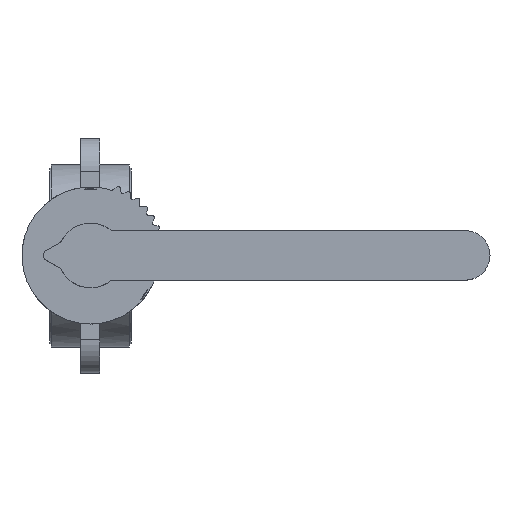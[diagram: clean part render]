
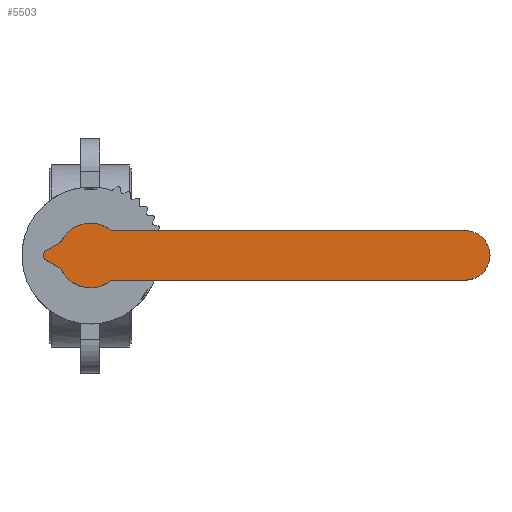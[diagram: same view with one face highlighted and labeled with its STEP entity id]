
A CAD part, top view. The second image highlights one B-rep face of the part: STEP entity #5503.
In plain terms, the highlighted planar face has unit normal (0, 0, 1).
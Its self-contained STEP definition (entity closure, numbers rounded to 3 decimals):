
#5503=ADVANCED_FACE('',(#10753),#10755,.T.);
#10753=FACE_BOUND('',#10754,.T.);
#10754=EDGE_LOOP('',(#15001,#15002,#15003,#15004,#15005,#15006,#15007,#15008,#15009,
#15010,#15011));
#10755=PLANE('',#10756);
#10756=AXIS2_PLACEMENT_3D('',#10757,#10758,#10759);
#10757=CARTESIAN_POINT('',(-1.545,-4.755,175.));
#10758=DIRECTION('',(0.,0.,1.));
#10759=DIRECTION('',(0.951,-0.309,0.));
#15001=ORIENTED_EDGE('',*,*,#17360,.T.);
#15002=ORIENTED_EDGE('',*,*,#17377,.T.);
#15003=ORIENTED_EDGE('',*,*,#17375,.T.);
#15004=ORIENTED_EDGE('',*,*,#17378,.T.);
#15005=ORIENTED_EDGE('',*,*,#17379,.T.);
#15006=ORIENTED_EDGE('',*,*,#17380,.T.);
#15007=ORIENTED_EDGE('',*,*,#17381,.T.);
#15008=ORIENTED_EDGE('',*,*,#17382,.T.);
#15009=ORIENTED_EDGE('',*,*,#17383,.T.);
#15010=ORIENTED_EDGE('',*,*,#17384,.T.);
#15011=ORIENTED_EDGE('',*,*,#17385,.T.);
#17360=EDGE_CURVE('',#20577,#20605,#20607,.T.);
#17375=EDGE_CURVE('',#20637,#20635,#20638,.T.);
#17377=EDGE_CURVE('',#20605,#20637,#20640,.T.);
#17378=EDGE_CURVE('',#20635,#20641,#20642,.T.);
#17379=EDGE_CURVE('',#20641,#20643,#20644,.T.);
#17380=EDGE_CURVE('',#20643,#20645,#20646,.T.);
#17381=EDGE_CURVE('',#20645,#20647,#20648,.T.);
#17382=EDGE_CURVE('',#20647,#20649,#20650,.T.);
#17383=EDGE_CURVE('',#20649,#20651,#20652,.T.);
#17384=EDGE_CURVE('',#20651,#20653,#20654,.T.);
#17385=EDGE_CURVE('',#20653,#20577,#20655,.T.);
#20577=VERTEX_POINT('',#29083);
#20605=VERTEX_POINT('',#29139);
#20607=LINE('',#29143,#29144);
#20635=VERTEX_POINT('',#29199);
#20637=VERTEX_POINT('',#29203);
#20638=LINE('',#29204,#29205);
#20640=CIRCLE('',#29210,13.);
#20641=VERTEX_POINT('',#29214);
#20642=CIRCLE('',#29215,17.);
#20643=VERTEX_POINT('',#29219);
#20644=CIRCLE('',#29220,17.);
#20645=VERTEX_POINT('',#29224);
#20646=CIRCLE('',#29225,3.);
#20647=VERTEX_POINT('',#29229);
#20648=LINE('',#29230,#29231);
#20649=VERTEX_POINT('',#29233);
#20650=CIRCLE('',#29234,3.);
#20651=VERTEX_POINT('',#29238);
#20652=LINE('',#29239,#29240);
#20653=VERTEX_POINT('',#29242);
#20654=CIRCLE('',#29243,3.);
#20655=CIRCLE('',#29247,17.);
#29083=CARTESIAN_POINT('',(10.954,-13.,175.));
#29139=CARTESIAN_POINT('',(197.,-13.,175.));
#29143=CARTESIAN_POINT('',(10.954,-13.,175.));
#29144=VECTOR('',#29145,1.);
#29145=DIRECTION('',(1.,0.,0.));
#29199=CARTESIAN_POINT('',(10.954,13.,175.));
#29203=CARTESIAN_POINT('',(197.,13.,175.));
#29204=CARTESIAN_POINT('',(197.,13.,175.));
#29205=VECTOR('',#29206,1.);
#29206=DIRECTION('',(-1.,0.,0.));
#29210=AXIS2_PLACEMENT_3D('',#29211,#29212,#29213);
#29211=CARTESIAN_POINT('',(197.,0.,175.));
#29212=DIRECTION('',(0.,0.,1.));
#29213=DIRECTION('',(0.,-1.,0.));
#29214=CARTESIAN_POINT('',(2.659,16.791,175.));
#29215=AXIS2_PLACEMENT_3D('',#29216,#29217,#29218);
#29216=CARTESIAN_POINT('',(0.,0.,175.));
#29217=DIRECTION('',(0.,0.,1.));
#29218=DIRECTION('',(0.644,0.765,0.));
#29219=CARTESIAN_POINT('',(-15.113,7.785,175.));
#29220=AXIS2_PLACEMENT_3D('',#29221,#29222,#29223);
#29221=CARTESIAN_POINT('',(0.,0.,175.));
#29222=DIRECTION('',(0.,0.,1.));
#29223=DIRECTION('',(0.156,0.988,0.));
#29224=CARTESIAN_POINT('',(-16.317,6.539,175.));
#29225=AXIS2_PLACEMENT_3D('',#29226,#29227,#29228);
#29226=CARTESIAN_POINT('',(-17.78,9.159,175.));
#29227=DIRECTION('',(0.,0.,-1.));
#29228=DIRECTION('',(0.889,-0.458,0.));
#29229=CARTESIAN_POINT('',(-23.338,2.619,175.));
#29230=CARTESIAN_POINT('',(-16.317,6.539,175.));
#29231=VECTOR('',#29232,1.);
#29232=DIRECTION('',(-0.873,-0.487,0.));
#29233=CARTESIAN_POINT('',(-23.338,-2.619,175.));
#29234=AXIS2_PLACEMENT_3D('',#29235,#29236,#29237);
#29235=CARTESIAN_POINT('',(-21.876,0.,175.));
#29236=DIRECTION('',(0.,0.,1.));
#29237=DIRECTION('',(-0.487,0.873,0.));
#29238=CARTESIAN_POINT('',(-16.317,-6.539,175.));
#29239=CARTESIAN_POINT('',(-23.338,-2.619,175.));
#29240=VECTOR('',#29241,1.);
#29241=DIRECTION('',(0.873,-0.487,0.));
#29242=CARTESIAN_POINT('',(-15.113,-7.785,175.));
#29243=AXIS2_PLACEMENT_3D('',#29244,#29245,#29246);
#29244=CARTESIAN_POINT('',(-17.78,-9.159,175.));
#29245=DIRECTION('',(0.,0.,-1.));
#29246=DIRECTION('',(0.487,0.873,0.));
#29247=AXIS2_PLACEMENT_3D('',#29248,#29249,#29250);
#29248=CARTESIAN_POINT('',(0.,0.,175.));
#29249=DIRECTION('',(0.,0.,1.));
#29250=DIRECTION('',(-0.889,-0.458,0.));
